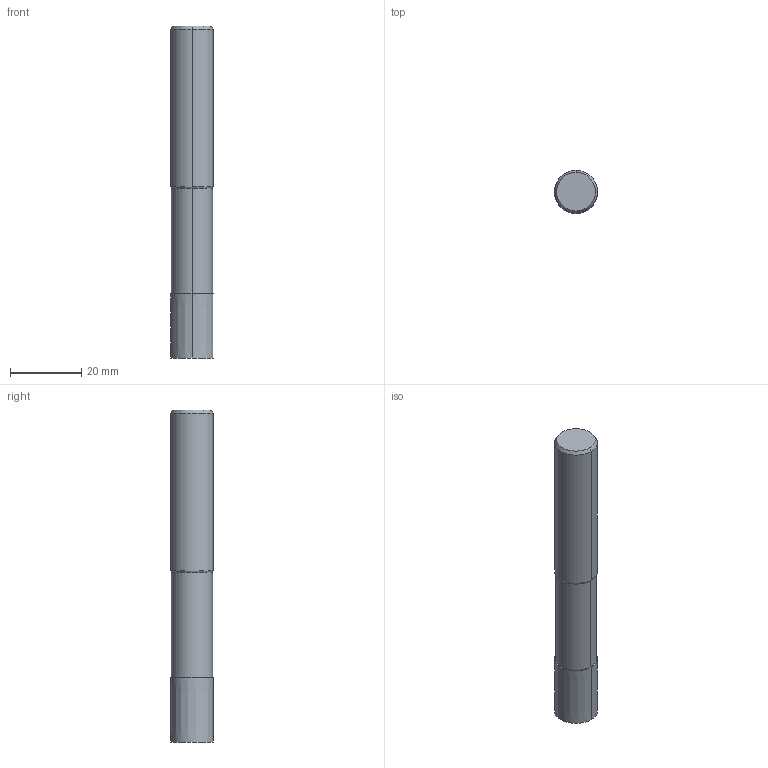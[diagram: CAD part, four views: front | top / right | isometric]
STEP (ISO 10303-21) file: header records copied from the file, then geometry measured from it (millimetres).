
FILE_DESCRIPTION(('no description'),'unknown implementation level');
FILE_NAME('solidzLSirOpDzM0rF5g_IOtaRSIEo0s_1.STP',' ',('CIMSOURCE GmbH'),('CADClick - KiM GmbH - www.kimweb.de'),'unknown preprocess','ACIS','unknown authorization');
FILE_SCHEMA(('automotive_design'));
Length unit declared in the file: millimetre
Products named in the file (2): NOCUT; CUT
Bounding box: 12 x 12 x 93 mm (x, y, z)
Volume: 10231.8 mm3; surface area: 4652.4 mm2
Topology: 2 solids, 2 shells, 41 faces, 93 edges, 58 vertices
Faces by surface type: cylinder 16, cone 14, plane 11
Entity records: 2552 total; most frequent: CARTESIAN_POINT 478, DIRECTION 211, STYLED_ITEM 194, PRESENTATION_STYLE_ASSIGNMENT 194, COLOUR_RGB 194, ORIENTED_EDGE 186, EDGE_CURVE 93, CURVE_STYLE 93
